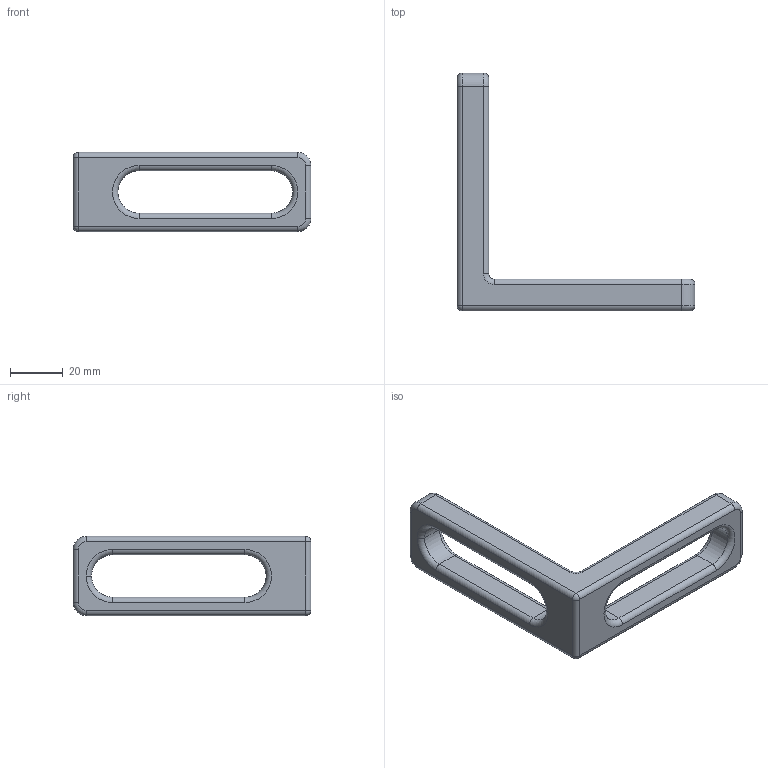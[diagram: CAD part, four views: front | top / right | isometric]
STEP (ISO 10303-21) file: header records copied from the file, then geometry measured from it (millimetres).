
FILE_DESCRIPTION (( 'STEP AP203' ), '1' );
FILE_NAME ('160111_90 WL.step', '2014-08-08T10:20:46', ( 'User' ), ( '' ), 'SwSTEP 2.0', 'SolidWorks 2014', '' );
FILE_SCHEMA (( 'CONFIG_CONTROL_DESIGN' ));
Length unit declared in the file: millimetre
Products named in the file (1): 160111_90 WL
Bounding box: 90 x 90 x 30 mm (x, y, z)
Volume: 34832.5 mm3; surface area: 13038.5 mm2
Topology: 1 solids, 1 shells, 67 faces, 154 edges, 87 vertices
Faces by surface type: cylinder 32, torus 21, plane 12, sphere 2
Entity records: 1957 total; most frequent: DIRECTION 378, CARTESIAN_POINT 307, ORIENTED_EDGE 304, AXIS2_PLACEMENT_3D 158, EDGE_CURVE 152, CIRCLE 90, VERTEX_POINT 87, EDGE_LOOP 71
